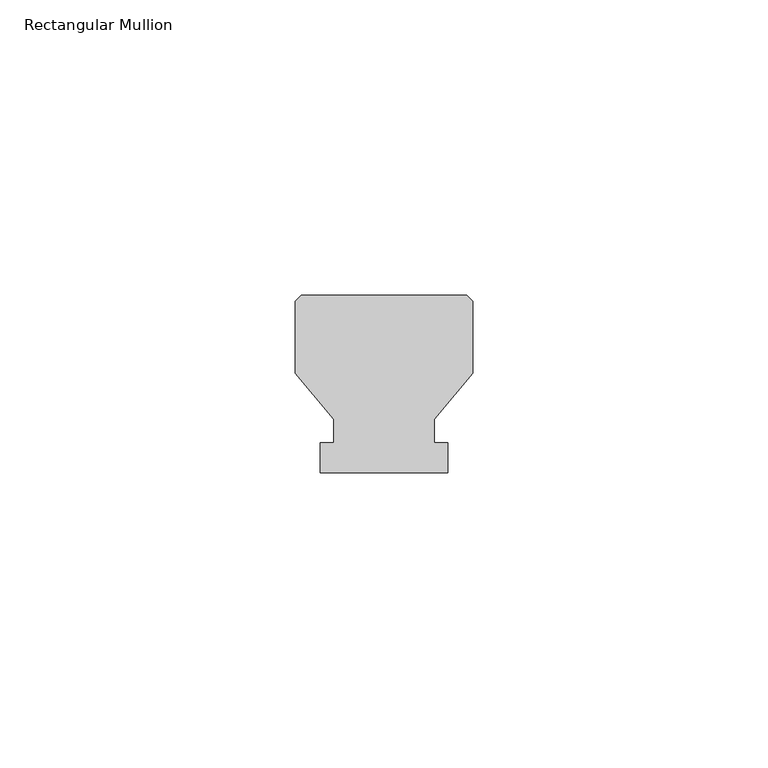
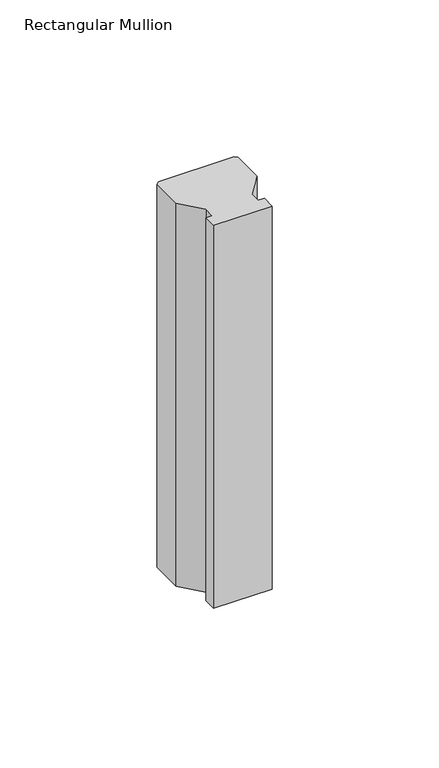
"""IFC4 building model written with IfcOpenShell, lengths in millimetres: member geometry, Rectangular Mullion : Batten_Timber_Modinex_Austratus_Grid_Fin_30x30_AlaskanYellowCedar."""

from ifc_helpers import new_model, si_unit, frame, origin, place, context, project, spatial, polyline, outline, extrude, source, transform, mapped, element, save


def rectangular_mullion_a370a012(model_context):
    return source(origin(), model_context, "Body", "SweptSolid", [
        extrude(outline(polyline([(-30.0, 16.8079815), (-30.0, 29.0), (-29.0, 30.0), (-1.0, 30.0), (0.0, 29.0), (0.0, 16.8079815), (-6.5, 9.0), (-6.5, 5.0), (-4.187805, 5.0), (-4.187805, 0.0), (-25.812195, 0.0), (-25.812195, 5.0), (-23.5, 5.0), (-23.5, 9.0), (-30.0, 16.8079815)])), frame((0.0, 0.0, -150.0), z_axis=(0.0, 0.0, 1.0), x_axis=(1.0, 0.0, 0.0)), (0.0, 0.0, 1.0), 150.0),
    ])


if __name__ == "__main__":
    model = new_model("IFC4")
    model_context = context("Model", 3, world=origin())
    ifc_project = project(units=[si_unit("LENGTHUNIT", "METRE", prefix="MILLI")], contexts=[model_context])
    site = spatial("IfcSite", under=ifc_project)
    building = spatial("IfcBuilding", under=site)
    placement = place(None, origin())
    rectangular_mullion_shape = rectangular_mullion_a370a012(model_context)
    element("IfcMember", 1, ObjectType="Rectangular Mullion : Batten_Timber_Modinex_Austratus_Grid_Fin_30x30_AlaskanYellowCedar", at=placement, inside=building, context=model_context, shape_type="MappedRepresentation", body=[
        mapped(rectangular_mullion_shape, transform((0.0, 0.0, 0.0), x_axis=(1.0, 0.0, 0.0), y_axis=(0.0, 1.0, 0.0), z_axis=(0.0, 0.0, 1.0))),
    ])
    save(model, "model.ifc")
